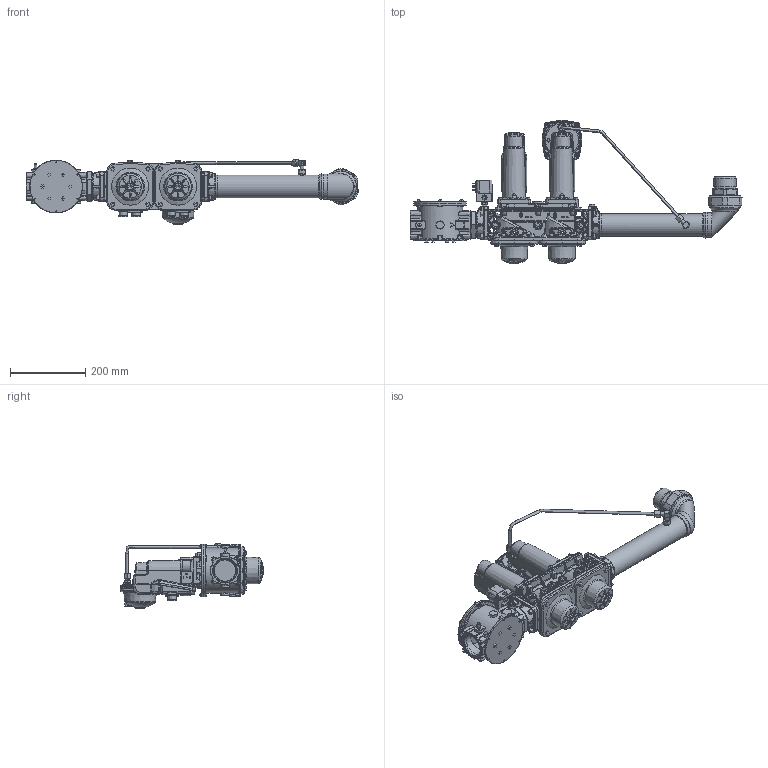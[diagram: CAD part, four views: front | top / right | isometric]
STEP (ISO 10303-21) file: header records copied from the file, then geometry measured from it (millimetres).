
FILE_DESCRIPTION (( 'STEP AP214' ), '1' );
FILE_NAME ('19990550.STEP', '2018-04-10T08:28:57', ( '' ), ( '' ), 'SwSTEP 2.0', 'SolidWorks 2016', '' );
FILE_SCHEMA (( 'AUTOMOTIVE_DESIGN' ));
Length unit declared in the file: millimetre
Products named in the file (1): 19990550
Bounding box: 882.2 x 381.8 x 172.68 mm (x, y, z)
Surface area: 796481.1 mm2 (no closed solid volume)
Topology: 0 solids, 176 shells, 4774 faces, 16106 edges, 10731 vertices
Faces by surface type: bspline 1785, cylinder 1346, plane 1296, cone 186, torus 148, sphere 13
Full cylindrical faces by diameter (mm): 3 x1, 4.2 x10, 6.2 x1, 6.5 x8, 8 x6, 8.5 x1, 8.6 x1, 8.8 x1, 9 x10, 9.5 x6, 10 x3, 11.5 x3, 11.55 x1, 12 x15, 12.5 x1, 13 x16, 13.16 x1, 14 x6, 15 x1, 18 x7, 18.5 x6, 20 x1, 22 x2, 22.5 x4, 23 x1, 24.5 x4, 26 x1, 32 x1, 36.15 x1, 53.1 x1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
Entity records: 337924 total; most frequent: CARTESIAN_POINT 183470, ORIENTED_EDGE 23887, DIRECTION 18574, EDGE_CURVE 15486, VERTEX_POINT 10539, AXIS2_PLACEMENT_3D 6836, B_SPLINE_CURVE_WITH_KNOTS 6102, EDGE_LOOP 5450
